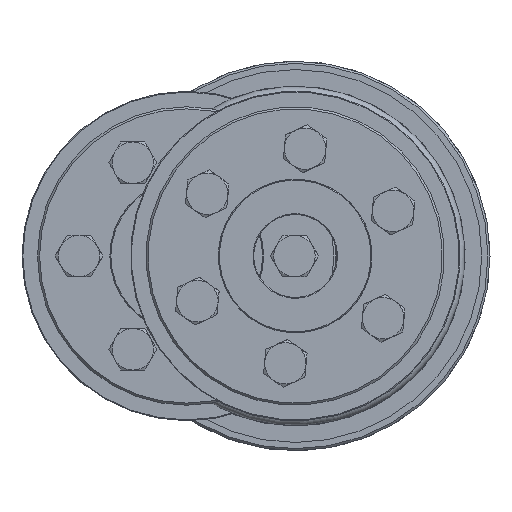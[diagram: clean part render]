
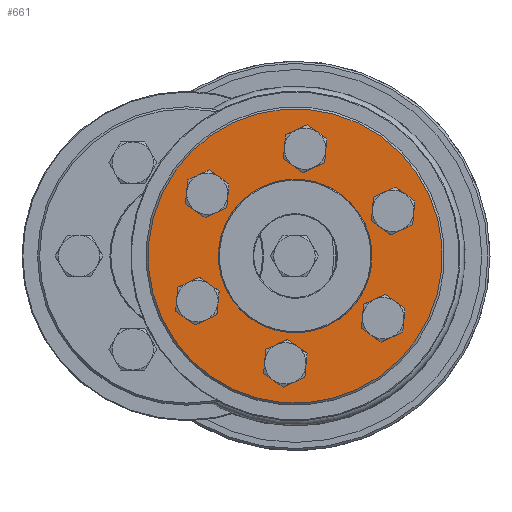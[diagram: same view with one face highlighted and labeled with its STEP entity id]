
A CAD part, left-side view. The second image highlights one B-rep face of the part: STEP entity #661.
In plain terms, the highlighted planar face has unit normal (-1, 0, 0).
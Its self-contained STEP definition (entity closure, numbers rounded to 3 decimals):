
#661 = ADVANCED_FACE( 'NONE', ( #1090, #1091, #1092, #1093, #1094, #1095, #1096, #1097 ), #1098, .F. );
#1090 = FACE_OUTER_BOUND( '', #1665, .T. );
#1091 = FACE_BOUND( '', #1666, .T. );
#1092 = FACE_BOUND( '', #1667, .T. );
#1093 = FACE_BOUND( '', #1668, .T. );
#1094 = FACE_BOUND( '', #1669, .T. );
#1095 = FACE_BOUND( '', #1670, .T. );
#1096 = FACE_BOUND( '', #1671, .T. );
#1097 = FACE_BOUND( '', #1672, .T. );
#1098 = PLANE( '', #1673 );
#1665 = EDGE_LOOP( '', ( #2444 ) );
#1666 = EDGE_LOOP( '', ( #2445 ) );
#1667 = EDGE_LOOP( '', ( #2446 ) );
#1668 = EDGE_LOOP( '', ( #2447 ) );
#1669 = EDGE_LOOP( '', ( #2448 ) );
#1670 = EDGE_LOOP( '', ( #2449 ) );
#1671 = EDGE_LOOP( '', ( #2450 ) );
#1672 = EDGE_LOOP( '', ( #2451 ) );
#1673 = AXIS2_PLACEMENT_3D( '', #2452, #2453, #2454 );
#2444 = ORIENTED_EDGE( '', *, *, #3698, .T. );
#2445 = ORIENTED_EDGE( '', *, *, #3699, .T. );
#2446 = ORIENTED_EDGE( '', *, *, #3700, .T. );
#2447 = ORIENTED_EDGE( '', *, *, #3701, .T. );
#2448 = ORIENTED_EDGE( '', *, *, #3694, .T. );
#2449 = ORIENTED_EDGE( '', *, *, #3692, .T. );
#2450 = ORIENTED_EDGE( '', *, *, #3702, .T. );
#2451 = ORIENTED_EDGE( '', *, *, #3697, .F. );
#2452 = CARTESIAN_POINT( '', ( 0., 18.5, 0. ) );
#2453 = DIRECTION( '', ( 1., 0., 0. ) );
#2454 = DIRECTION( '', ( 0., 1., 0. ) );
#3692 = EDGE_CURVE( 'NONE', #4082, #4082, #4083, .T. );
#3694 = EDGE_CURVE( 'NONE', #4086, #4086, #4087, .T. );
#3697 = EDGE_CURVE( 'NONE', #4092, #4092, #4093, .T. );
#3698 = EDGE_CURVE( 'NONE', #4094, #4094, #4095, .T. );
#3699 = EDGE_CURVE( 'NONE', #4096, #4096, #4097, .T. );
#3700 = EDGE_CURVE( 'NONE', #4098, #4098, #4099, .T. );
#3701 = EDGE_CURVE( 'NONE', #4100, #4100, #4101, .T. );
#3702 = EDGE_CURVE( 'NONE', #4102, #4102, #4103, .T. );
#4082 = VERTEX_POINT( '', #4632 );
#4083 = CIRCLE( '', #4633, 3.3 );
#4086 = VERTEX_POINT( '', #4636 );
#4087 = CIRCLE( '', #4637, 3.3 );
#4092 = VERTEX_POINT( '', #4642 );
#4093 = CIRCLE( '', #4643, 18.5 );
#4094 = VERTEX_POINT( '', #4644 );
#4095 = CIRCLE( '', #4645, 35.5 );
#4096 = VERTEX_POINT( '', #4646 );
#4097 = CIRCLE( '', #4647, 3.3 );
#4098 = VERTEX_POINT( '', #4648 );
#4099 = CIRCLE( '', #4649, 3.3 );
#4100 = VERTEX_POINT( '', #4650 );
#4101 = CIRCLE( '', #4651, 3.3 );
#4102 = VERTEX_POINT( '', #4652 );
#4103 = CIRCLE( '', #4653, 3.3 );
#4632 = CARTESIAN_POINT( '', ( 0., 13., -25.817 ) );
#4633 = AXIS2_PLACEMENT_3D( '', #5376, #5377, #5378 );
#4636 = CARTESIAN_POINT( '', ( 0., -13., -25.817 ) );
#4637 = AXIS2_PLACEMENT_3D( '', #5382, #5383, #5384 );
#4642 = CARTESIAN_POINT( '', ( 0., 0., 18.5 ) );
#4643 = AXIS2_PLACEMENT_3D( '', #5391, #5392, #5393 );
#4644 = CARTESIAN_POINT( '', ( 0., 0., -35.5 ) );
#4645 = AXIS2_PLACEMENT_3D( '', #5394, #5395, #5396 );
#4646 = CARTESIAN_POINT( '', ( 0., 13., 19.217 ) );
#4647 = AXIS2_PLACEMENT_3D( '', #5397, #5398, #5399 );
#4648 = CARTESIAN_POINT( '', ( 0., -13., 19.217 ) );
#4649 = AXIS2_PLACEMENT_3D( '', #5400, #5401, #5402 );
#4650 = CARTESIAN_POINT( '', ( 0., -26., -3.3 ) );
#4651 = AXIS2_PLACEMENT_3D( '', #5403, #5404, #5405 );
#4652 = CARTESIAN_POINT( '', ( 0., 26., -3.3 ) );
#4653 = AXIS2_PLACEMENT_3D( '', #5406, #5407, #5408 );
#5376 = CARTESIAN_POINT( '', ( 0., 13., -22.517 ) );
#5377 = DIRECTION( '', ( 1., 0., 0. ) );
#5378 = DIRECTION( '', ( 0., 0., -1. ) );
#5382 = CARTESIAN_POINT( '', ( 0., -13., -22.517 ) );
#5383 = DIRECTION( '', ( 1., 0., 0. ) );
#5384 = DIRECTION( '', ( 0., 0., -1. ) );
#5391 = CARTESIAN_POINT( '', ( 0., 0., 0. ) );
#5392 = DIRECTION( '', ( -1., 0., 0. ) );
#5393 = DIRECTION( '', ( 0., 0., 1. ) );
#5394 = CARTESIAN_POINT( '', ( 0., 0., 0. ) );
#5395 = DIRECTION( '', ( -1., 0., 0. ) );
#5396 = DIRECTION( '', ( 0., 0., -1. ) );
#5397 = CARTESIAN_POINT( '', ( 0., 13., 22.517 ) );
#5398 = DIRECTION( '', ( 1., 0., 0. ) );
#5399 = DIRECTION( '', ( 0., 0., -1. ) );
#5400 = CARTESIAN_POINT( '', ( 0., -13., 22.517 ) );
#5401 = DIRECTION( '', ( 1., 0., 0. ) );
#5402 = DIRECTION( '', ( 0., 0., -1. ) );
#5403 = CARTESIAN_POINT( '', ( 0., -26., 0. ) );
#5404 = DIRECTION( '', ( 1., 0., 0. ) );
#5405 = DIRECTION( '', ( 0., 0., -1. ) );
#5406 = CARTESIAN_POINT( '', ( 0., 26., 0. ) );
#5407 = DIRECTION( '', ( 1., 0., 0. ) );
#5408 = DIRECTION( '', ( 0., 0., -1. ) );
